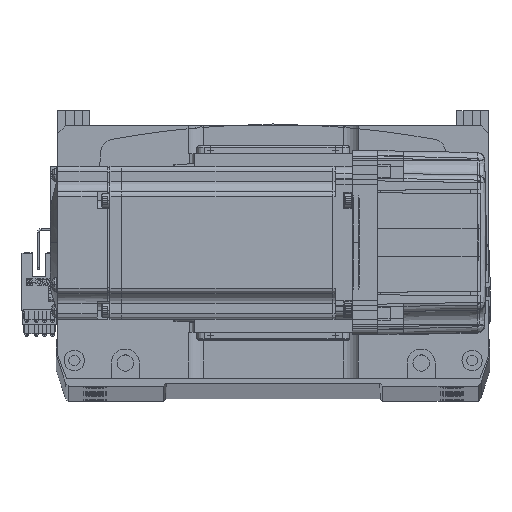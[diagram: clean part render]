
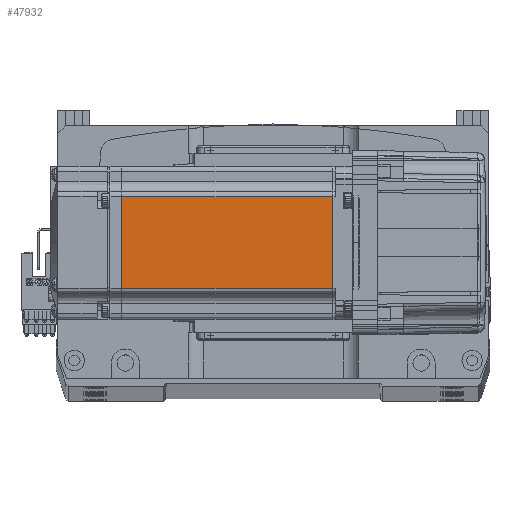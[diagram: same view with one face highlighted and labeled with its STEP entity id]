
A CAD part, top view. The second image highlights one B-rep face of the part: STEP entity #47932.
In plain terms, the highlighted planar face has unit normal (0, 0, 1).
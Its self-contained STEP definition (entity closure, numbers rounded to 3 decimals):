
#545 = EDGE_LOOP ( 'NONE', ( #2391, #26248, #4626, #27230 ) ) ;
#2391 = ORIENTED_EDGE ( 'NONE', *, *, #39138, .F. ) ;
#4626 = ORIENTED_EDGE ( 'NONE', *, *, #10340, .T. ) ;
#6703 = CARTESIAN_POINT ( 'NONE',  ( -7.75, 18., 30. ) ) ;
#9954 = AXIS2_PLACEMENT_3D ( 'NONE', #24618, #63805, #18313 ) ;
#9980 = VERTEX_POINT ( 'NONE', #6703 ) ;
#10340 = EDGE_CURVE ( 'NONE', #58583, #28986, #27958, .T. ) ;
#12027 = EDGE_CURVE ( 'NONE', #9980, #58583, #54041, .T. ) ;
#12667 = PLANE ( 'NONE',  #9954 ) ;
#18313 = DIRECTION ( 'NONE',  ( 1., 0., 0. ) ) ;
#23486 = LINE ( 'NONE', #45402, #51492 ) ;
#23907 = VERTEX_POINT ( 'NONE', #27385 ) ;
#24618 = CARTESIAN_POINT ( 'NONE',  ( -6.5, -25., 30. ) ) ;
#25283 = VECTOR ( 'NONE', #40745, 1000. ) ;
#26248 = ORIENTED_EDGE ( 'NONE', *, *, #12027, .T. ) ;
#27230 = ORIENTED_EDGE ( 'NONE', *, *, #61976, .F. ) ;
#27385 = CARTESIAN_POINT ( 'NONE',  ( -7.75, -18., 30. ) ) ;
#27958 = LINE ( 'NONE', #52550, #25283 ) ;
#28986 = VERTEX_POINT ( 'NONE', #62632 ) ;
#32779 = CARTESIAN_POINT ( 'NONE',  ( -6.5, 18., 30. ) ) ;
#38223 = VECTOR ( 'NONE', #38883, 1000. ) ;
#38883 = DIRECTION ( 'NONE',  ( -1., 0., 0. ) ) ;
#39138 = EDGE_CURVE ( 'NONE', #9980, #23907, #48265, .T. ) ;
#40745 = DIRECTION ( 'NONE',  ( 0., -1., 0. ) ) ;
#42352 = CARTESIAN_POINT ( 'NONE',  ( -90.45, 18., 30. ) ) ;
#45402 = CARTESIAN_POINT ( 'NONE',  ( -6.5, -18., 30. ) ) ;
#47932 = ADVANCED_FACE ( 'NONE', ( #62647 ), #12667, .T. ) ;
#48265 = LINE ( 'NONE', #62374, #63136 ) ;
#51492 = VECTOR ( 'NONE', #62591, 1000. ) ;
#52550 = CARTESIAN_POINT ( 'NONE',  ( -90.45, 0., 30. ) ) ;
#54041 = LINE ( 'NONE', #32779, #38223 ) ;
#58583 = VERTEX_POINT ( 'NONE', #42352 ) ;
#61976 = EDGE_CURVE ( 'NONE', #23907, #28986, #23486, .T. ) ;
#62119 = DIRECTION ( 'NONE',  ( 0., -1., 0. ) ) ;
#62374 = CARTESIAN_POINT ( 'NONE',  ( -7.75, 0., 30. ) ) ;
#62591 = DIRECTION ( 'NONE',  ( -1., 0., 0. ) ) ;
#62632 = CARTESIAN_POINT ( 'NONE',  ( -90.45, -18., 30. ) ) ;
#62647 = FACE_OUTER_BOUND ( 'NONE', #545, .T. ) ;
#63136 = VECTOR ( 'NONE', #62119, 1000. ) ;
#63805 = DIRECTION ( 'NONE',  ( 0., 0., 1. ) ) ;
